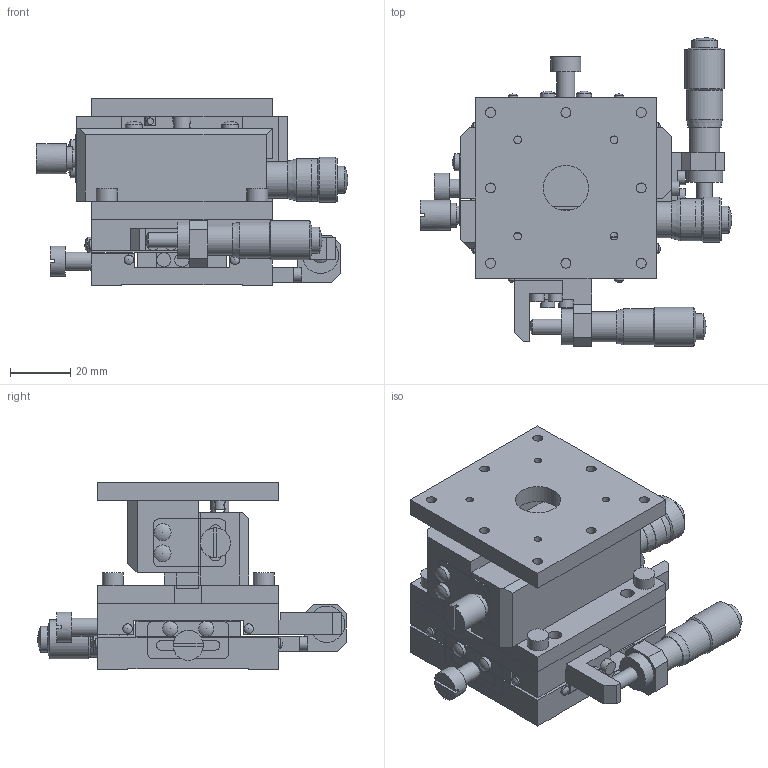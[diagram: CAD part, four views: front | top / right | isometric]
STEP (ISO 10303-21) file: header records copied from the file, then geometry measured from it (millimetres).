
FILE_DESCRIPTION( ( 'STEP AP203' ), '1' );
FILE_NAME( '//Srg14/OST事業部/技術G/Topsolid/Technical/標準品-3Dデータ作成エリア/ASSY/B72-60C/3D_B72-60C+090227.step', '2009-02-27T00:36:47', ( ' ' ), ( ' ' ), 'XStep 1.0', ' ', ' ' );
FILE_SCHEMA( ( 'CONFIG_CONTROL_DESIGN' ) );
Length unit declared in the file: millimetre
Products named in the file (9): 1; 2; 3; 4; 5; 6; 7; 8; 9
Bounding box: 103.3 x 102.5 x 62 mm (x, y, z)
Volume: 182609.5 mm3; surface area: 79948.3 mm2
Topology: 9 solids, 9 shells, 482 faces, 1265 edges, 833 vertices
Faces by surface type: plane 282, cylinder 159, sphere 22, cone 18, bspline 1
Full cylindrical faces by diameter (mm): 2 x4, 2.2 x2, 2.5 x8, 3 x7, 3.2 x8, 3.3 x22, 3.5 x2, 4 x1, 4.5 x8, 4.7 x8, 5 x14, 5.6 x4, 6 x4, 6.35 x1, 6.5 x1, 7 x4, 8 x7, 8.6 x2, 9 x2, 9.5 x1, 10 x8, 10.5 x2, 12 x6, 13 x2, 13.6 x1, 14 x1, 15 x3
Entity records: 13885 total; most frequent: CARTESIAN_POINT 2509, DIRECTION 2286, ORIENTED_EDGE 1970, EDGE_CURVE 985, AXIS2_PLACEMENT_3D 817, EDGE_LOOP 783, VERTEX_POINT 736, LINE 652
